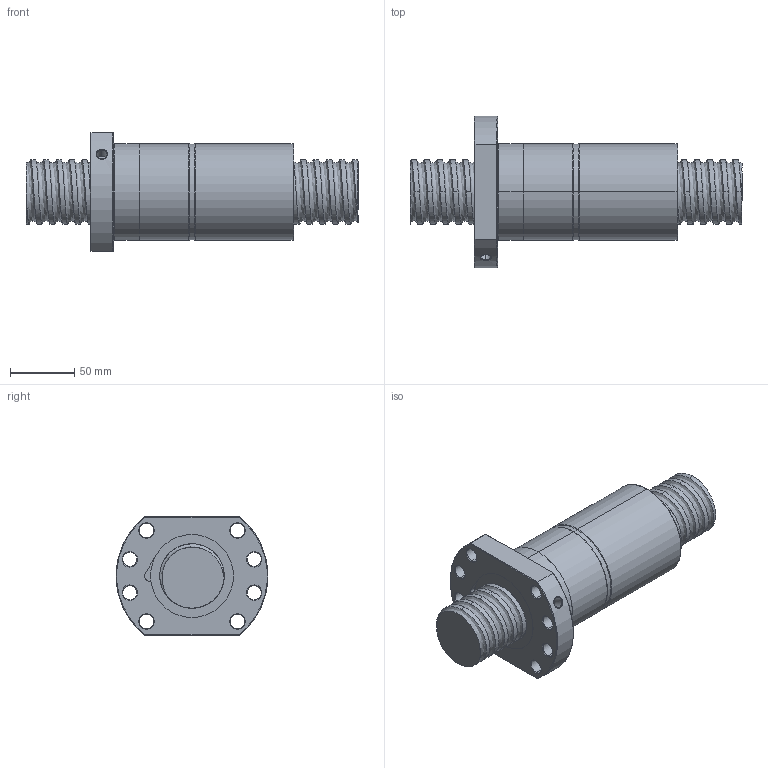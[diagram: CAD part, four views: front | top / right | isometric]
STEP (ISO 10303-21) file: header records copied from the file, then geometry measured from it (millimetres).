
FILE_DESCRIPTION (( 'STEP AP214' ), '1' );
FILE_NAME ('FDDC05010T5-F-C.STEP', '2010-07-07T01:41:53', ( 'XPAUTO' ), ( 'XPAUTO' ), 'SwSTEP 2.0', 'SolidWorks 2007', '' );
FILE_SCHEMA (( 'AUTOMOTIVE_DESIGN' ));
Length unit declared in the file: millimetre
Products named in the file (3): FDDC05010T5-F-C.sldasm-Part-1_預設; FDDC05010T5-F-C; FDDC05010T5-F-C.sldasm-Part-2_預設
Assembly tree (2 placements, depth 2):
  FDDC05010T5-F-C
    FDDC05010T5-F-C.sldasm-Part-2_預設
    FDDC05010T5-F-C.sldasm-Part-1_預設
Bounding box: 258 x 117.61 x 92 mm (x, y, z)
Volume: 923284 mm3; surface area: 136215.6 mm2
Topology: 2 solids, 2 shells, 167 faces, 419 edges, 261 vertices
Faces by surface type: cylinder 98, cone 32, plane 22, torus 10, bspline 5
Entity records: 47851 total; most frequent: CARTESIAN_POINT 43913, ORIENTED_EDGE 838, DIRECTION 755, EDGE_CURVE 419, AXIS2_PLACEMENT_3D 304, VERTEX_POINT 261, EDGE_LOOP 192, ADVANCED_FACE 167
